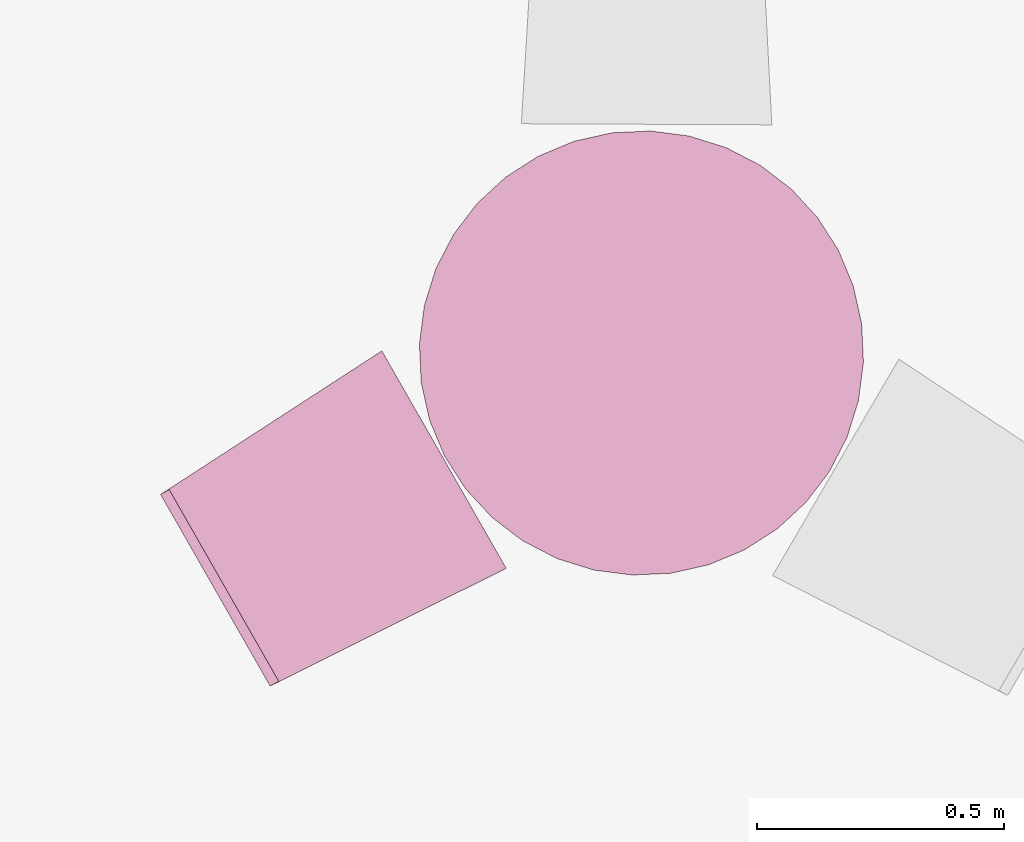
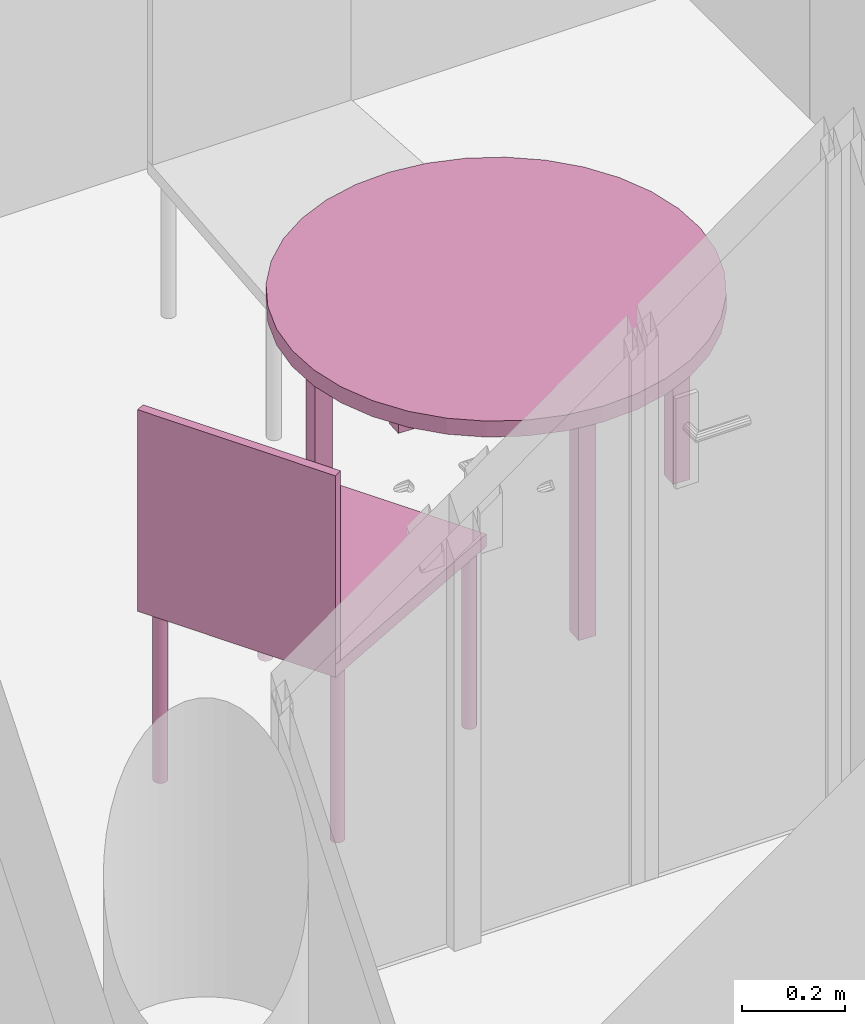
"""IFC4 building model written with IfcOpenShell, lengths in metres."""

from ifc_helpers import new_model, entity, si_unit, converted_unit, derived_unit, frame, origin, place, context, subcontext, project, spatial, faceted_brep, element, save


model = new_model("IFC4")

# Units and contexts
model_context = context("Model", 3, precision=1e-05, world=origin())
body_context = subcontext(model_context, "Body", "Model", "MODEL_VIEW")
ifc_project = project(units=[si_unit("LENGTHUNIT", "METRE"), si_unit("AREAUNIT", "SQUARE_METRE"), si_unit("VOLUMEUNIT", "CUBIC_METRE"), si_unit("MASSUNIT", "GRAM", prefix="KILO"), converted_unit("PLANEANGLEUNIT", "DEGREE", entity("IfcPlaneAngleMeasure", 0.0174532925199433), si_unit("PLANEANGLEUNIT", "RADIAN"), dimensions=[0, 0, 0, 0, 0, 0, 0]), derived_unit("THERMALTRANSMITTANCEUNIT", [(si_unit("POWERUNIT", "WATT"), 1), (si_unit("THERMODYNAMICTEMPERATUREUNIT", "KELVIN"), -1), (si_unit("LENGTHUNIT", "METRE"), -2)]), derived_unit("VOLUMETRICFLOWRATEUNIT", [(si_unit("LENGTHUNIT", "METRE"), 3), (converted_unit("TIMEUNIT", "hour", entity("IfcTimeMeasure", 3600.0), si_unit("TIMEUNIT", "SECOND"), dimensions=[0, 0, 1, 0, 0, 0, 0]), -1), (si_unit("LENGTHUNIT", "METRE"), -1)])], contexts=[model_context])

# Building, storeys
building_placement = place(None, origin())
building = spatial("IfcBuilding", under=ifc_project, at=building_placement, Name="HABITATGE PLURIFAMILIAR", CompositionType="ELEMENT")
storey_1_placement = place(building_placement, frame((0.0, 0.0, 9.26)))
storey_1 = spatial("IfcBuildingStorey", under=building, at=storey_1_placement, Name="PLANTA SEGONA", CompositionType="ELEMENT", Elevation=9.26)
storey_2_placement = place(storey_1_placement, frame((0.0, 0.0, 6.25)))
storey_2 = spatial("IfcBuildingStorey", under=storey_1, at=storey_2_placement, Name="NOU", CompositionType="PARTIAL")

# Furniture
furniture_1_placement = place(storey_2_placement, frame((406.25083905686, 14.2443359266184, -6.3514820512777)))
element("IfcFurniture", 1, at=furniture_1_placement, inside=storey_2, Name="Cadira confident_P2", context=body_context, shape_type="Brep", body=[
    faceted_brep([(0.65764325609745, 0.259799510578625, 0.0), (0.655503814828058, 0.258315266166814, 0.0), (0.653654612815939, 0.256482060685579, 0.0), (0.652151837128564, 0.254355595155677, 0.0), (0.651041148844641, 0.252000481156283, 0.0), (0.650356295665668, 0.249488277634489, 0.0), (0.650118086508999, 0.246895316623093, 0.0), (0.650333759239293, 0.244300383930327, 0.0), (0.650996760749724, 0.241782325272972, 0.0), (0.652086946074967, 0.239417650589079, 0.0), (0.653571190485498, 0.237278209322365, 0.0), (0.655404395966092, 0.23542900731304, 0.0), (0.657530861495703, 0.233926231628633, 0.0), (0.65988597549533, 0.23281554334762, 0.0), (0.66239817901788, 0.232130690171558, 0.0), (0.664991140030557, 0.231892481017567, 0.0), (0.667586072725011, 0.232108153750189, 0.0), (0.670104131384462, 0.232771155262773, 0.0), (0.6724688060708, 0.233861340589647, 0.0), (0.674608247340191, 0.235345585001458, 0.0), (0.676457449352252, 0.237178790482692, 0.0), (0.677960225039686, 0.239305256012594, 0.0), (0.679070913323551, 0.241660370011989, 0.0), (0.679755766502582, 0.244172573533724, 0.0), (0.679993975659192, 0.246765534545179, 0.0), (0.679778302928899, 0.249360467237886, 0.0), (0.679115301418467, 0.251878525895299, 0.0), (0.678025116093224, 0.254243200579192, 0.0), (0.676540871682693, 0.256382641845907, 0.0), (0.674707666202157, 0.258231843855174, 0.0), (0.672581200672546, 0.25973461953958, 0.0), (0.670226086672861, 0.260845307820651, 0.0), (0.667713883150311, 0.261530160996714, 0.0), (0.665120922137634, 0.261768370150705, 0.0), (0.66252598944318, 0.261552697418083, 0.0), (0.66000793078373, 0.260889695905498, 0.0), (0.65764325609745, 0.259799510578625, 0.448281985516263), (0.66000793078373, 0.260889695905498, 0.448281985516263), (0.66252598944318, 0.261552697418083, 0.448281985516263), (0.665120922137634, 0.261768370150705, 0.448281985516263), (0.667713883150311, 0.261530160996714, 0.448281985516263), (0.670226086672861, 0.260845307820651, 0.448281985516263), (0.672581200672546, 0.25973461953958, 0.448281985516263), (0.674707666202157, 0.258231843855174, 0.448281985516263), (0.676540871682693, 0.256382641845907, 0.448281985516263), (0.678025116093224, 0.254243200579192, 0.448281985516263), (0.679115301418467, 0.251878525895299, 0.448281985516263), (0.679778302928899, 0.249360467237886, 0.448281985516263), (0.679993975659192, 0.246765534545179, 0.448281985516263), (0.679755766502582, 0.244172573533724, 0.448281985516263), (0.679070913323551, 0.241660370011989, 0.448281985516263), (0.677960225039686, 0.239305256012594, 0.448281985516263), (0.676457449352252, 0.237178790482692, 0.448281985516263), (0.674608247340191, 0.235345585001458, 0.448281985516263), (0.6724688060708, 0.233861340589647, 0.448281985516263), (0.670104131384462, 0.232771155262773, 0.448281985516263), (0.667586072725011, 0.232108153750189, 0.448281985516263), (0.664991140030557, 0.231892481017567, 0.448281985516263), (0.66239817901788, 0.232130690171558, 0.448281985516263), (0.65988597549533, 0.23281554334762, 0.448281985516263), (0.657530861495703, 0.233926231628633, 0.448281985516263), (0.655404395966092, 0.23542900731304, 0.448281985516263), (0.653571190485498, 0.237278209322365, 0.448281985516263), (0.652086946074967, 0.239417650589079, 0.448281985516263), (0.650996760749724, 0.241782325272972, 0.448281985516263), (0.650333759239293, 0.244300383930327, 0.448281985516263), (0.650118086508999, 0.246895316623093, 0.448281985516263), (0.650356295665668, 0.249488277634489, 0.448281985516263), (0.651041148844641, 0.252000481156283, 0.448281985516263), (0.652151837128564, 0.254355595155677, 0.448281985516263), (0.653654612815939, 0.256482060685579, 0.448281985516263), (0.655503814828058, 0.258315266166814, 0.448281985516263)], [[[0, 1, 2, 3, 4, 5, 6, 7, 8, 9, 10, 11, 12, 13, 14, 15, 16, 17, 18, 19, 20, 21, 22, 23, 24, 25, 26, 27, 28, 29, 30, 31, 32, 33, 34, 35]], [[36, 37, 38, 39, 40, 41, 42, 43, 44, 45, 46, 47, 48, 49, 50, 51, 52, 53, 54, 55, 56, 57, 58, 59, 60, 61, 62, 63, 64, 65, 66, 67, 68, 69, 70, 71]], [[1, 0, 36, 71]], [[2, 1, 71, 70]], [[3, 2, 70, 69]], [[4, 3, 69, 68]], [[5, 4, 68, 67]], [[6, 5, 67, 66]], [[7, 6, 66, 65]], [[8, 7, 65, 64]], [[9, 8, 64, 63]], [[10, 9, 63, 62]], [[11, 10, 62, 61]], [[12, 11, 61, 60]], [[13, 12, 60, 59]], [[14, 13, 59, 58]], [[15, 14, 58, 57]], [[16, 15, 57, 56]], [[17, 16, 56, 55]], [[18, 17, 55, 54]], [[19, 18, 54, 53]], [[20, 19, 53, 52]], [[21, 20, 52, 51]], [[22, 21, 51, 50]], [[23, 22, 50, 49]], [[24, 23, 49, 48]], [[25, 24, 48, 47]], [[26, 25, 47, 46]], [[27, 26, 46, 45]], [[28, 27, 45, 44]], [[29, 28, 44, 43]], [[30, 29, 43, 42]], [[31, 30, 42, 41]], [[32, 31, 41, 40]], [[33, 32, 40, 39]], [[34, 33, 39, 38]], [[35, 34, 38, 37]], [[0, 35, 37, 36]]], orient=[[False], [False], [False], [False], [False], [False], [False], [False], [False], [False], [False], [False], [False], [False], [False], [False], [False], [False], [False], [False], [False], [False], [False], [False], [False], [False], [False], [False], [False], [False], [False], [False], [False], [False], [False], [False], [False], [False]]),
    faceted_brep([(0.242471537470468, 0.0543327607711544, 0.0), (0.240332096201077, 0.0528485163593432, 0.0), (0.238482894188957, 0.0510153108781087, 0.0), (0.236980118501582, 0.0488888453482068, 0.0), (0.235869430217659, 0.0465337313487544, 0.0), (0.235184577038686, 0.0440215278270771, 0.0), (0.234946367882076, 0.0414285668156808, 0.0), (0.235162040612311, 0.0388336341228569, 0.0), (0.2358250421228, 0.0363155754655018, 0.0), (0.236915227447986, 0.0339509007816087, 0.0), (0.238399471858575, 0.0318114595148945, 0.0), (0.240232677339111, 0.0299622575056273, 0.0), (0.242359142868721, 0.0284594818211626, 0.0), (0.244714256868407, 0.0273487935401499, 0.0), (0.247226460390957, 0.0266639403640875, 0.0), (0.249819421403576, 0.0264257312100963, 0.0), (0.252414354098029, 0.0266414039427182, 0.0), (0.254932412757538, 0.0273044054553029, 0.0), (0.257297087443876, 0.0283945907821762, 0.0), (0.25943652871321, 0.0298788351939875, 0.0), (0.261285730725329, 0.0317120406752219, 0.0), (0.262788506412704, 0.0338385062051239, 0.0), (0.263899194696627, 0.0361936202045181, 0.0), (0.2645840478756, 0.0387058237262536, 0.0), (0.264822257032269, 0.041298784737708, 0.0), (0.264606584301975, 0.0438937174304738, 0.0), (0.263943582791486, 0.0464117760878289, 0.0), (0.262853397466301, 0.048776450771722, 0.0), (0.261369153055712, 0.0509158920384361, 0.0), (0.259535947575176, 0.0527650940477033, 0.0), (0.257409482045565, 0.054267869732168, 0.0), (0.25505436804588, 0.0553785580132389, 0.0), (0.252542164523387, 0.056063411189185, 0.0), (0.249949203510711, 0.0563016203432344, 0.0), (0.247354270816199, 0.0560859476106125, 0.0), (0.244836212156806, 0.0554229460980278, 0.0), (0.242471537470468, 0.0543327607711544, 0.448281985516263), (0.244836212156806, 0.0554229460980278, 0.448281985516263), (0.247354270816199, 0.0560859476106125, 0.448281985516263), (0.249949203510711, 0.0563016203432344, 0.448281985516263), (0.252542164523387, 0.056063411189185, 0.448281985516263), (0.25505436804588, 0.0553785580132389, 0.448281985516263), (0.257409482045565, 0.054267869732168, 0.448281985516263), (0.259535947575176, 0.0527650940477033, 0.448281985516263), (0.261369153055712, 0.0509158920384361, 0.448281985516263), (0.262853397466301, 0.048776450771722, 0.448281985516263), (0.263943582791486, 0.0464117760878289, 0.448281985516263), (0.264606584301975, 0.0438937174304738, 0.448281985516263), (0.264822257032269, 0.041298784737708, 0.448281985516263), (0.2645840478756, 0.0387058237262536, 0.448281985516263), (0.263899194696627, 0.0361936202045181, 0.448281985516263), (0.262788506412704, 0.0338385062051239, 0.448281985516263), (0.261285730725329, 0.0317120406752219, 0.448281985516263), (0.25943652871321, 0.0298788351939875, 0.448281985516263), (0.257297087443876, 0.0283945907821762, 0.448281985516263), (0.254932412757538, 0.0273044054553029, 0.448281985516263), (0.252414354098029, 0.0266414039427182, 0.448281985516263), (0.249819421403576, 0.0264257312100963, 0.448281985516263), (0.247226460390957, 0.0266639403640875, 0.448281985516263), (0.244714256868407, 0.0273487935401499, 0.448281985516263), (0.242359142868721, 0.0284594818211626, 0.448281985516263), (0.240232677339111, 0.0299622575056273, 0.448281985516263), (0.238399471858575, 0.0318114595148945, 0.448281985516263), (0.236915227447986, 0.0339509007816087, 0.448281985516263), (0.2358250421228, 0.0363155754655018, 0.448281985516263), (0.235162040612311, 0.0388336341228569, 0.448281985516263), (0.234946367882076, 0.0414285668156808, 0.448281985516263), (0.235184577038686, 0.0440215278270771, 0.448281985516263), (0.235869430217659, 0.0465337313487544, 0.448281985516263), (0.236980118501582, 0.0488888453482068, 0.448281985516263), (0.238482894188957, 0.0510153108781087, 0.448281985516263), (0.240332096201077, 0.0528485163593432, 0.448281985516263)], [[[0, 1, 2, 3, 4, 5, 6, 7, 8, 9, 10, 11, 12, 13, 14, 15, 16, 17, 18, 19, 20, 21, 22, 23, 24, 25, 26, 27, 28, 29, 30, 31, 32, 33, 34, 35]], [[36, 37, 38, 39, 40, 41, 42, 43, 44, 45, 46, 47, 48, 49, 50, 51, 52, 53, 54, 55, 56, 57, 58, 59, 60, 61, 62, 63, 64, 65, 66, 67, 68, 69, 70, 71]], [[1, 0, 36, 71]], [[2, 1, 71, 70]], [[3, 2, 70, 69]], [[4, 3, 69, 68]], [[5, 4, 68, 67]], [[6, 5, 67, 66]], [[7, 6, 66, 65]], [[8, 7, 65, 64]], [[9, 8, 64, 63]], [[10, 9, 63, 62]], [[11, 10, 62, 61]], [[12, 11, 61, 60]], [[13, 12, 60, 59]], [[14, 13, 59, 58]], [[15, 14, 58, 57]], [[16, 15, 57, 56]], [[17, 16, 56, 55]], [[18, 17, 55, 54]], [[19, 18, 54, 53]], [[20, 19, 53, 52]], [[21, 20, 52, 51]], [[22, 21, 51, 50]], [[23, 22, 50, 49]], [[24, 23, 49, 48]], [[25, 24, 48, 47]], [[26, 25, 47, 46]], [[27, 26, 46, 45]], [[28, 27, 45, 44]], [[29, 28, 44, 43]], [[30, 29, 43, 42]], [[31, 30, 42, 41]], [[32, 31, 41, 40]], [[33, 32, 40, 39]], [[34, 33, 39, 38]], [[35, 34, 38, 37]], [[0, 35, 37, 36]]], orient=[[False], [False], [False], [False], [False], [False], [False], [False], [False], [False], [False], [False], [False], [False], [False], [False], [False], [False], [False], [False], [False], [False], [False], [False], [False], [False], [False], [False], [False], [False], [False], [False], [False], [False], [False], [False], [False], [False]]),
    faceted_brep([(0.429375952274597, 0.659166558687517, 0.0), (0.427236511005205, 0.657682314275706, 0.0), (0.425387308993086, 0.655849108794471, 0.0), (0.423884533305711, 0.653722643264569, 0.0), (0.422773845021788, 0.651367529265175, 0.0), (0.422088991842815, 0.64885532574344, 0.0), (0.421850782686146, 0.646262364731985, 0.0), (0.42206645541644, 0.643667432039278, 0.0), (0.422729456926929, 0.641149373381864, 0.0), (0.423819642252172, 0.638784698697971, 0.0), (0.425303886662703, 0.636645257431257, 0.0), (0.427137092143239, 0.634796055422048, 0.0), (0.42926355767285, 0.633293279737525, 0.0), (0.431618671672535, 0.632182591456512, 0.0), (0.434130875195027, 0.631497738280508, 0.0), (0.436723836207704, 0.631259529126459, 0.0), (0.439318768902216, 0.631475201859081, 0.0), (0.441836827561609, 0.632138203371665, 0.0), (0.444201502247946, 0.633228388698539, 0.0), (0.446340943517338, 0.63471263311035, 0.0), (0.448190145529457, 0.636545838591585, 0.0), (0.449692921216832, 0.638672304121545, 0.0), (0.450803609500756, 0.641027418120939, 0.0), (0.451488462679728, 0.643539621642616, 0.0), (0.451726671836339, 0.646132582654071, 0.0), (0.451510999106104, 0.648727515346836, 0.0), (0.450847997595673, 0.651245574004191, 0.0), (0.449757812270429, 0.653610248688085, 0.0), (0.44827356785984, 0.655749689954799, 0.0), (0.446440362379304, 0.657598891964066, 0.0), (0.444313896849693, 0.659101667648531, 0.0), (0.441958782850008, 0.660212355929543, 0.0), (0.439446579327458, 0.660897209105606, 0.0), (0.436853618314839, 0.661135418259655, 0.0), (0.434258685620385, 0.660919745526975, 0.0), (0.431740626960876, 0.66025674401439, 0.0), (0.429375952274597, 0.659166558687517, 0.448281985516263), (0.431740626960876, 0.66025674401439, 0.448281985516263), (0.434258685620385, 0.660919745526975, 0.448281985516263), (0.436853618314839, 0.661135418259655, 0.448281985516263), (0.439446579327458, 0.660897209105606, 0.448281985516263), (0.441958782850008, 0.660212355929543, 0.448281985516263), (0.444313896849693, 0.659101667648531, 0.448281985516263), (0.446440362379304, 0.657598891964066, 0.448281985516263), (0.44827356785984, 0.655749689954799, 0.448281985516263), (0.449757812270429, 0.653610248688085, 0.448281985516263), (0.450847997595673, 0.651245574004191, 0.448281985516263), (0.451510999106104, 0.648727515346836, 0.448281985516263), (0.451726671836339, 0.646132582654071, 0.448281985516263), (0.451488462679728, 0.643539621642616, 0.448281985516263), (0.450803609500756, 0.641027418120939, 0.448281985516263), (0.449692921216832, 0.638672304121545, 0.448281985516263), (0.448190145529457, 0.636545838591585, 0.448281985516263), (0.446340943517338, 0.63471263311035, 0.448281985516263), (0.444201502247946, 0.633228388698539, 0.448281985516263), (0.441836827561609, 0.632138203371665, 0.448281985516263), (0.439318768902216, 0.631475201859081, 0.448281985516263), (0.436723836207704, 0.631259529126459, 0.448281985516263), (0.434130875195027, 0.631497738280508, 0.448281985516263), (0.431618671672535, 0.632182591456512, 0.448281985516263), (0.42926355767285, 0.633293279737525, 0.448281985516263), (0.427137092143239, 0.634796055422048, 0.448281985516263), (0.425303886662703, 0.636645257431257, 0.448281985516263), (0.423819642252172, 0.638784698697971, 0.448281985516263), (0.422729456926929, 0.641149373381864, 0.448281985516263), (0.42206645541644, 0.643667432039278, 0.448281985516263), (0.421850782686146, 0.646262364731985, 0.448281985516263), (0.422088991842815, 0.64885532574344, 0.448281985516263), (0.422773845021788, 0.651367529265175, 0.448281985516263), (0.423884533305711, 0.653722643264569, 0.448281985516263), (0.425387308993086, 0.655849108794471, 0.448281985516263), (0.427236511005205, 0.657682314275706, 0.448281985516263)], [[[0, 1, 2, 3, 4, 5, 6, 7, 8, 9, 10, 11, 12, 13, 14, 15, 16, 17, 18, 19, 20, 21, 22, 23, 24, 25, 26, 27, 28, 29, 30, 31, 32, 33, 34, 35]], [[36, 37, 38, 39, 40, 41, 42, 43, 44, 45, 46, 47, 48, 49, 50, 51, 52, 53, 54, 55, 56, 57, 58, 59, 60, 61, 62, 63, 64, 65, 66, 67, 68, 69, 70, 71]], [[1, 0, 36, 71]], [[2, 1, 71, 70]], [[3, 2, 70, 69]], [[4, 3, 69, 68]], [[5, 4, 68, 67]], [[6, 5, 67, 66]], [[7, 6, 66, 65]], [[8, 7, 65, 64]], [[9, 8, 64, 63]], [[10, 9, 63, 62]], [[11, 10, 62, 61]], [[12, 11, 61, 60]], [[13, 12, 60, 59]], [[14, 13, 59, 58]], [[15, 14, 58, 57]], [[16, 15, 57, 56]], [[17, 16, 56, 55]], [[18, 17, 55, 54]], [[19, 18, 54, 53]], [[20, 19, 53, 52]], [[21, 20, 52, 51]], [[22, 21, 51, 50]], [[23, 22, 50, 49]], [[24, 23, 49, 48]], [[25, 24, 48, 47]], [[26, 25, 47, 46]], [[27, 26, 46, 45]], [[28, 27, 45, 44]], [[29, 28, 44, 43]], [[30, 29, 43, 42]], [[31, 30, 42, 41]], [[32, 31, 41, 40]], [[33, 32, 40, 39]], [[34, 33, 39, 38]], [[35, 34, 38, 37]], [[0, 35, 37, 36]]], orient=[[False], [False], [False], [False], [False], [False], [False], [False], [False], [False], [False], [False], [False], [False], [False], [False], [False], [False], [False], [False], [False], [False], [False], [False], [False], [False], [False], [False], [False], [False], [False], [False], [False], [False], [False], [False], [False], [False]]),
    faceted_brep([(0.0439782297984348, 0.401608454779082, 0.0), (0.0418387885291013, 0.40012421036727, 0.0), (0.0399895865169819, 0.398291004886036, 0.0), (0.0384868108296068, 0.396164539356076, 0.0), (0.0373761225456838, 0.393809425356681, 0.0), (0.0366912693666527, 0.391297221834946, 0.0), (0.0364530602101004, 0.38870426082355, 0.0), (0.0366687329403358, 0.386109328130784, 0.0), (0.0373317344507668, 0.383591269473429, 0.0), (0.0384219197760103, 0.381226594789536, 0.0), (0.039906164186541, 0.379087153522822, 0.0), (0.0417393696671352, 0.377237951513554, 0.0), (0.0438658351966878, 0.37573517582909, 0.0), (0.0462209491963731, 0.374624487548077, 0.0), (0.0487331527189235, 0.373939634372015, 0.0), (0.0513261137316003, 0.373701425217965, 0.0), (0.0539210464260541, 0.373917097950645, 0.0), (0.0564391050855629, 0.37458009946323, 0.0), (0.0588037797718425, 0.375670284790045, 0.0), (0.0609432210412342, 0.377154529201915, 0.0), (0.0627924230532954, 0.378987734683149, 0.0), (0.0642951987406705, 0.381114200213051, 0.0), (0.0654058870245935, 0.383469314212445, 0.0), (0.0660907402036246, 0.385981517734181, 0.0), (0.0663289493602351, 0.388574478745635, 0.0), (0.0661132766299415, 0.391169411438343, 0.0), (0.0654502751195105, 0.393687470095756, 0.0), (0.064360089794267, 0.396052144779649, 0.0), (0.0628758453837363, 0.398191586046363, 0.0), (0.0610426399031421, 0.400040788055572, 0.0), (0.0589161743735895, 0.401543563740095, 0.0), (0.0565610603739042, 0.40265425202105, 0.0), (0.0540488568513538, 0.403339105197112, 0.0), (0.051455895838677, 0.403577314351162, 0.0), (0.0488609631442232, 0.40336164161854, 0.0), (0.0463429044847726, 0.402698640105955, 0.0), (0.0439782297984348, 0.401608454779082, 0.448281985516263), (0.0463429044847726, 0.402698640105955, 0.448281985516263), (0.0488609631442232, 0.40336164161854, 0.448281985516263), (0.051455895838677, 0.403577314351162, 0.448281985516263), (0.0540488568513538, 0.403339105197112, 0.448281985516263), (0.0565610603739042, 0.40265425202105, 0.448281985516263), (0.0589161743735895, 0.401543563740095, 0.448281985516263), (0.0610426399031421, 0.400040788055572, 0.448281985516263), (0.0628758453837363, 0.398191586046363, 0.448281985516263), (0.064360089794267, 0.396052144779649, 0.448281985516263), (0.0654502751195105, 0.393687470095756, 0.448281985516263), (0.0661132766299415, 0.391169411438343, 0.448281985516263), (0.0663289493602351, 0.388574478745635, 0.448281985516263), (0.0660907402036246, 0.385981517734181, 0.448281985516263), (0.0654058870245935, 0.383469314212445, 0.448281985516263), (0.0642951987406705, 0.381114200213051, 0.448281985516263), (0.0627924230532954, 0.378987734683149, 0.448281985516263), (0.0609432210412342, 0.377154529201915, 0.448281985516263), (0.0588037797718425, 0.375670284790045, 0.448281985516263), (0.0564391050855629, 0.37458009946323, 0.448281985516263), (0.0539210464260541, 0.373917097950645, 0.448281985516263), (0.0513261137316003, 0.373701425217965, 0.448281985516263), (0.0487331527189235, 0.373939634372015, 0.448281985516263), (0.0462209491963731, 0.374624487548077, 0.448281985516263), (0.0438658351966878, 0.37573517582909, 0.448281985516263), (0.0417393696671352, 0.377237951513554, 0.448281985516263), (0.039906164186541, 0.379087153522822, 0.448281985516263), (0.0384219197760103, 0.381226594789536, 0.448281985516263), (0.0373317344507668, 0.383591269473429, 0.448281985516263), (0.0366687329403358, 0.386109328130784, 0.448281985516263), (0.0364530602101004, 0.38870426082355, 0.448281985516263), (0.0366912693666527, 0.391297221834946, 0.448281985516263), (0.0373761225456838, 0.393809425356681, 0.448281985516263), (0.0384868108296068, 0.396164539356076, 0.448281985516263), (0.0399895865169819, 0.398291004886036, 0.448281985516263), (0.0418387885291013, 0.40012421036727, 0.448281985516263)], [[[0, 1, 2, 3, 4, 5, 6, 7, 8, 9, 10, 11, 12, 13, 14, 15, 16, 17, 18, 19, 20, 21, 22, 23, 24, 25, 26, 27, 28, 29, 30, 31, 32, 33, 34, 35]], [[36, 37, 38, 39, 40, 41, 42, 43, 44, 45, 46, 47, 48, 49, 50, 51, 52, 53, 54, 55, 56, 57, 58, 59, 60, 61, 62, 63, 64, 65, 66, 67, 68, 69, 70, 71]], [[1, 0, 36, 71]], [[2, 1, 71, 70]], [[3, 2, 70, 69]], [[4, 3, 69, 68]], [[5, 4, 68, 67]], [[6, 5, 67, 66]], [[7, 6, 66, 65]], [[8, 7, 65, 64]], [[9, 8, 64, 63]], [[10, 9, 63, 62]], [[11, 10, 62, 61]], [[12, 11, 61, 60]], [[13, 12, 60, 59]], [[14, 13, 59, 58]], [[15, 14, 58, 57]], [[16, 15, 57, 56]], [[17, 16, 56, 55]], [[18, 17, 55, 54]], [[19, 18, 54, 53]], [[20, 19, 53, 52]], [[21, 20, 52, 51]], [[22, 21, 51, 50]], [[23, 22, 50, 49]], [[24, 23, 49, 48]], [[25, 24, 48, 47]], [[26, 25, 47, 46]], [[27, 26, 46, 45]], [[28, 27, 45, 44]], [[29, 28, 44, 43]], [[30, 29, 43, 42]], [[31, 30, 42, 41]], [[32, 31, 41, 40]], [[33, 32, 40, 39]], [[34, 33, 39, 38]], [[35, 34, 38, 37]], [[0, 35, 37, 36]]], orient=[[False], [False], [False], [False], [False], [False], [False], [False], [False], [False], [False], [False], [False], [False], [False], [False], [False], [False], [False], [False], [False], [False], [False], [False], [False], [False], [False], [False], [False], [False], [False], [False], [False], [False], [False], [False], [False], [False]]),
    faceted_brep([(0.0, 0.387659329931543, 0.418281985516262), (0.22157549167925, 0.0, 0.418281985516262), (0.698866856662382, 0.238252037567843, 0.418281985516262), (0.447517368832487, 0.678002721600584, 0.418281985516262), (0.447517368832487, 0.678002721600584, 0.448281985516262), (0.698866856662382, 0.238252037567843, 0.448281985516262), (0.22157549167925, 0.0, 0.448281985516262), (0.0, 0.387659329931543, 0.448281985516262)], [[[0, 1, 2, 3]], [[4, 5, 6, 7]], [[3, 4, 7, 0]], [[2, 5, 4, 3]], [[1, 6, 5, 2]], [[0, 7, 6, 1]]], orient=[[False], [False], [False], [False], [False], [False]]),
    faceted_brep([(0.0173637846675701, 0.397583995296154, 0.448281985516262), (0.0, 0.387659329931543, 0.448281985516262), (0.221575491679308, 0.0, 0.448281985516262), (0.238939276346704, 0.00992466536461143, 0.448281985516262), (0.238939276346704, 0.00992466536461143, 0.898281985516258), (0.221575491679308, 0.0, 0.898281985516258), (0.0, 0.387659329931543, 0.898281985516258), (0.0173637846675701, 0.397583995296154, 0.898281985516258)], [[[0, 1, 2, 3]], [[4, 5, 6, 7]], [[3, 4, 7, 0]], [[2, 5, 4, 3]], [[1, 6, 5, 2]], [[0, 7, 6, 1]]], orient=[[False], [False], [False], [False], [False], [False]]),
])
furniture_2_placement = place(storey_2_placement, frame((406.774272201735, 14.4690184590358, -6.25)))
element("IfcFurniture", 2, at=furniture_2_placement, inside=storey_2, Name="Taula D120_P2", context=body_context, shape_type="Brep", body=[
    faceted_brep([(0.430338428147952, 0.0, 0.532), (0.508577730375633, 0.00359104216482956, 0.532), (0.585004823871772, 0.0207136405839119, 0.532), (0.657297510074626, 0.0508475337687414, 0.532), (0.723259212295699, 0.0930771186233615, 0.532), (0.780885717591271, 0.14611927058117, 0.532), (0.828426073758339, 0.208362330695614, 0.532), (0.864435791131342, 0.277915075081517, 0.532), (0.88782073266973, 0.352664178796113, 0.532), (0.89787035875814, 0.430338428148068, 0.532), (0.894279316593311, 0.508577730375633, 0.532), (0.877156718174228, 0.58500482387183, 0.532), (0.847022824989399, 0.657297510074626, 0.532), (0.804793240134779, 0.723259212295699, 0.532), (0.75175108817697, 0.780885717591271, 0.532), (0.689508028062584, 0.828426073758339, 0.532), (0.619955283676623, 0.8644357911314, 0.532), (0.545206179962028, 0.88782073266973, 0.532), (0.46753193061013, 0.897870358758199, 0.532), (0.389292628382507, 0.894279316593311, 0.532), (0.31286553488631, 0.877156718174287, 0.532), (0.240572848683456, 0.847022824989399, 0.532), (0.174611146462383, 0.804793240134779, 0.532), (0.116984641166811, 0.75175108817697, 0.532), (0.0694442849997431, 0.689508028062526, 0.532), (0.0334345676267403, 0.619955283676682, 0.532), (0.0100496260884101, 0.545206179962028, 0.532), (0.0, 0.467531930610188, 0.532), (0.00359104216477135, 0.389292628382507, 0.532), (0.0207136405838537, 0.312865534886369, 0.532), (0.0508475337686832, 0.240572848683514, 0.532), (0.0930771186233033, 0.174611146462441, 0.532), (0.146119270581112, 0.11698464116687, 0.532), (0.208362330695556, 0.0694442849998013, 0.532), (0.277915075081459, 0.0334345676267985, 0.532), (0.352664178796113, 0.0100496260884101, 0.532), (0.430338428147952, 0.0, 0.57), (0.352664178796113, 0.0100496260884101, 0.57), (0.277915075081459, 0.0334345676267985, 0.57), (0.208362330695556, 0.0694442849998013, 0.57), (0.146119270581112, 0.11698464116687, 0.57), (0.0930771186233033, 0.174611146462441, 0.57), (0.0508475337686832, 0.240572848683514, 0.57), (0.0207136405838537, 0.312865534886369, 0.57), (0.00359104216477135, 0.389292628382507, 0.57), (0.0, 0.467531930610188, 0.57), (0.0100496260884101, 0.545206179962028, 0.57), (0.0334345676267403, 0.619955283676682, 0.57), (0.0694442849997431, 0.689508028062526, 0.57), (0.116984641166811, 0.75175108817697, 0.57), (0.174611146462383, 0.804793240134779, 0.57), (0.240572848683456, 0.847022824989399, 0.57), (0.31286553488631, 0.877156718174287, 0.57), (0.389292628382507, 0.894279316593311, 0.57), (0.46753193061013, 0.897870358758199, 0.57), (0.545206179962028, 0.88782073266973, 0.57), (0.619955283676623, 0.8644357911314, 0.57), (0.689508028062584, 0.828426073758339, 0.57), (0.75175108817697, 0.780885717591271, 0.57), (0.804793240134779, 0.723259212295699, 0.57), (0.847022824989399, 0.657297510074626, 0.57), (0.877156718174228, 0.58500482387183, 0.57), (0.894279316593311, 0.508577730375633, 0.57), (0.89787035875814, 0.430338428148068, 0.57), (0.88782073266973, 0.352664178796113, 0.57), (0.864435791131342, 0.277915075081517, 0.57), (0.828426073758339, 0.208362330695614, 0.57), (0.780885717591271, 0.14611927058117, 0.57), (0.723259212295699, 0.0930771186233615, 0.57), (0.657297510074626, 0.0508475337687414, 0.57), (0.585004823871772, 0.0207136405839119, 0.57), (0.508577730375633, 0.00359104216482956, 0.57)], [[[0, 1, 2, 3, 4, 5, 6, 7, 8, 9, 10, 11, 12, 13, 14, 15, 16, 17, 18, 19, 20, 21, 22, 23, 24, 25, 26, 27, 28, 29, 30, 31, 32, 33, 34, 35]], [[36, 37, 38, 39, 40, 41, 42, 43, 44, 45, 46, 47, 48, 49, 50, 51, 52, 53, 54, 55, 56, 57, 58, 59, 60, 61, 62, 63, 64, 65, 66, 67, 68, 69, 70, 71]], [[1, 0, 36, 71]], [[2, 1, 71, 70]], [[3, 2, 70, 69]], [[4, 3, 69, 68]], [[5, 4, 68, 67]], [[6, 5, 67, 66]], [[7, 6, 66, 65]], [[8, 7, 65, 64]], [[9, 8, 64, 63]], [[10, 9, 63, 62]], [[11, 10, 62, 61]], [[12, 11, 61, 60]], [[13, 12, 60, 59]], [[14, 13, 59, 58]], [[15, 14, 58, 57]], [[16, 15, 57, 56]], [[17, 16, 56, 55]], [[18, 17, 55, 54]], [[19, 18, 54, 53]], [[20, 19, 53, 52]], [[21, 20, 52, 51]], [[22, 21, 51, 50]], [[23, 22, 50, 49]], [[24, 23, 49, 48]], [[25, 24, 48, 47]], [[26, 25, 47, 46]], [[27, 26, 46, 45]], [[28, 27, 45, 44]], [[29, 28, 44, 43]], [[30, 29, 43, 42]], [[31, 30, 42, 41]], [[32, 31, 41, 40]], [[33, 32, 40, 39]], [[34, 33, 39, 38]], [[35, 34, 38, 37]], [[0, 35, 37, 36]]], orient=[[False], [False], [False], [False], [False], [False], [False], [False], [False], [False], [False], [False], [False], [False], [False], [False], [False], [False], [False], [False], [False], [False], [False], [False], [False], [False], [False], [False], [False], [False], [False], [False], [False], [False], [False], [False], [False], [False]]),
    faceted_brep([(0.861860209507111, 0.442576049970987, 0.0), (0.823892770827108, 0.444148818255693, 0.0), (0.822320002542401, 0.406181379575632, 0.0), (0.860287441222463, 0.404608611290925, 0.0), (0.823892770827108, 0.444148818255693, 0.532), (0.861860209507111, 0.442576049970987, 0.532), (0.860287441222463, 0.404608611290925, 0.532), (0.822320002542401, 0.406181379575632, 0.532)], [[[0, 1, 2, 3]], [[4, 5, 6, 7]], [[1, 0, 5, 4]], [[2, 1, 4, 7]], [[3, 2, 7, 6]], [[0, 3, 6, 5]]], orient=[[False], [False], [False], [False], [False], [False]]),
    faceted_brep([(0.485019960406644, 0.860977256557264, 0.0), (0.447052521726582, 0.86255002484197, 0.0), (0.445479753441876, 0.824582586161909, 0.0), (0.483447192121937, 0.823009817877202, 0.0), (0.447052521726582, 0.86255002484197, 0.532), (0.485019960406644, 0.860977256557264, 0.532), (0.483447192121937, 0.823009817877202, 0.532), (0.445479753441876, 0.824582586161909, 0.532)], [[[0, 1, 2, 3]], [[4, 5, 6, 7]], [[1, 0, 5, 4]], [[2, 1, 4, 7]], [[3, 2, 7, 6]], [[0, 3, 6, 5]]], orient=[[False], [False], [False], [False], [False], [False]]),
    faceted_brep([(0.43676352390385, 0.0742072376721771, 0.0), (0.398796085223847, 0.0757800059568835, 0.0), (0.39722331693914, 0.0378125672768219, 0.0), (0.435190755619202, 0.0362397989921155, 0.0), (0.398796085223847, 0.0757800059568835, 0.532), (0.43676352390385, 0.0742072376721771, 0.532), (0.435190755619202, 0.0362397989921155, 0.532), (0.39722331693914, 0.0378125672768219, 0.532)], [[[0, 1, 2, 3]], [[4, 5, 6, 7]], [[1, 0, 5, 4]], [[2, 1, 4, 7]], [[3, 2, 7, 6]], [[0, 3, 6, 5]]], orient=[[False], [False], [False], [False], [False], [False]]),
    faceted_brep([(0.0745941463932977, 0.475187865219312, 0.0), (0.0366267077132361, 0.476760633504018, 0.0), (0.0350539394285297, 0.438793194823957, 0.0), (0.0730213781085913, 0.43722042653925, 0.0), (0.0366267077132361, 0.476760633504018, 0.532), (0.0745941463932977, 0.475187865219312, 0.532), (0.0730213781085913, 0.43722042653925, 0.532), (0.0350539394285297, 0.438793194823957, 0.532)], [[[0, 1, 2, 3]], [[4, 5, 6, 7]], [[1, 0, 5, 4]], [[2, 1, 4, 7]], [[3, 2, 7, 6]], [[0, 3, 6, 5]]], orient=[[False], [False], [False], [False], [False], [False]]),
])

save(model, "model.ifc")
